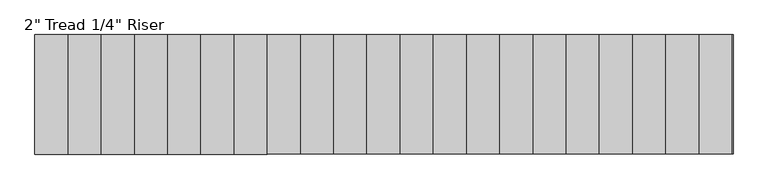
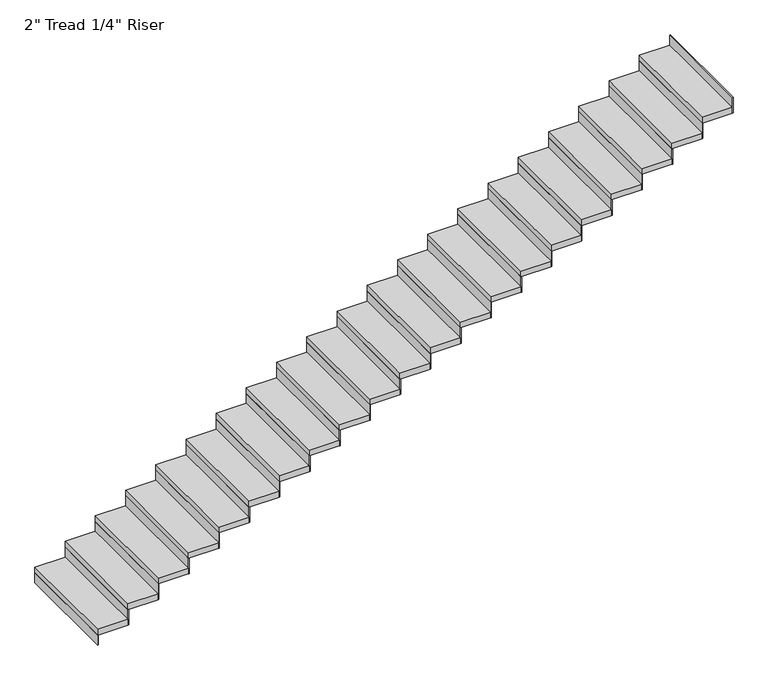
"""IFC4 building model written with IfcOpenShell, lengths in millimetres: stair flight geometry."""

import ifcopenshell
import ifcopenshell.guid

model = None  # the IFC model being written
_history = None  # IfcOwnerHistory: only IFC2X3 demands one
_inside = {}  # id of a spatial element -> (the spatial element, [elements in it])
_under = {}  # id of a project, library or spatial element -> (it, [spatial elements below it])
_declared = {}  # id of a project -> (the project, [libraries it declares])
_typed = {}  # id of a type object -> (the type object, [elements of that type])
_made_of = {}  # id of a material, layer set ... -> (it, [elements and type objects made of it])


def new_model(schema):
    """Start an empty IFC model of exactly this schema.

    Asked for "IFC4X3", IfcOpenShell would pick the latest addendum, in which some entities
    have other attributes; the version numbers below select the first issue.
    IFC2X3 requires an IfcOwnerHistory on every rooted entity: one is made here for all.
    """
    global model, _history
    if schema == "IFC4X3":
        model = ifcopenshell.file(schema_version=(4, 3, 0, 0))
    else:
        model = ifcopenshell.file(schema=schema)
    _inside.clear()
    _under.clear()
    _declared.clear()
    _typed.clear()
    _made_of.clear()
    _history = None
    if model.schema == "IFC2X3":
        org = make("IfcOrganization", Name="unknown")
        user = make(
            "IfcPersonAndOrganization",
            ThePerson=make("IfcPerson", FamilyName="unknown"),
            TheOrganization=org,
        )
        app = make(
            "IfcApplication",
            ApplicationDeveloper=org,
            Version="unknown",
            ApplicationFullName="unknown",
            ApplicationIdentifier="unknown",
        )
        _history = make(
            "IfcOwnerHistory",
            OwningUser=user,
            OwningApplication=app,
            ChangeAction="ADDED",
            CreationDate=0,
        )
    return model


def make(cls, **values):
    """One entity of the class cls with the attributes given. An attribute that is None is left unset."""
    return model.create_entity(
        cls, **{name: value for name, value in values.items() if value is not None}
    )


def rooted(cls, **values):
    """An entity with a GlobalId (a new one), such as an element, a storey or a relation."""
    return make(cls, GlobalId=ifcopenshell.guid.new(), OwnerHistory=_history, **values)


def si_unit(unit_type, name, prefix=None):
    """IfcSIUnit, for example si_unit("LENGTHUNIT", "METRE", prefix="MILLI")."""
    return make("IfcSIUnit", UnitType=unit_type, Prefix=prefix, Name=name)


def assignment(units):
    """IfcUnitAssignment: the units of a project."""
    return None if units is None else make("IfcUnitAssignment", Units=units)


def point(xyz):
    """IfcCartesianPoint."""
    return None if xyz is None else make("IfcCartesianPoint", Coordinates=xyz)


def direction(xyz):
    """IfcDirection."""
    return None if xyz is None else make("IfcDirection", DirectionRatios=xyz)


def frame(location, z_axis=None, x_axis=None):
    """IfcAxis2Placement3D, a coordinate frame: its origin and axes. An axis left out is left unset."""
    return make(
        "IfcAxis2Placement3D",
        Location=point(location),
        Axis=direction(z_axis),
        RefDirection=direction(x_axis),
    )


def origin():
    """The frame at (0, 0, 0) with its axes left unset."""
    return frame((0.0, 0.0, 0.0))


def origin_with_axes():
    """The frame at (0, 0, 0) with the z axis (0, 0, 1) and the x axis (1, 0, 0) written out."""
    return frame((0.0, 0.0, 0.0), z_axis=(0.0, 0.0, 1.0), x_axis=(1.0, 0.0, 0.0))


def place(relative_to, where):
    """IfcLocalPlacement: puts the frame where relative to a parent placement (None: the world)."""
    return make(
        "IfcLocalPlacement", PlacementRelTo=relative_to, RelativePlacement=where
    )


def context(
    kind, dimensions, precision=None, world=None, true_north=None, identifier=None
):
    """IfcGeometricRepresentationContext, for example the 3D "Model" context."""
    return make(
        "IfcGeometricRepresentationContext",
        ContextIdentifier=identifier,
        ContextType=kind,
        CoordinateSpaceDimension=dimensions,
        Precision=precision,
        WorldCoordinateSystem=world,
        TrueNorth=true_north,
    )


def project(units=None, contexts=None):
    """IfcProject with its units and contexts."""
    return rooted(
        "IfcProject",
        Name="project",
        RepresentationContexts=contexts,
        UnitsInContext=assignment(units),
    )


def spatial(cls, under=None, at=None, **own):
    """A site, building, storey or space (cls), placed at a placement, below another one or the project."""
    s = rooted(cls, ObjectPlacement=at, **own)
    if under is not None:
        _under.setdefault(under.id(), (under, []))[1].append(s)
    return s


def polyline(points):
    """IfcPolyline through the points."""
    return make("IfcPolyline", Points=[point(p) for p in points])


def outline(outer, holes=None, kind="AREA"):
    """IfcArbitraryClosedProfileDef: a profile drawn as a closed curve; with holes, ...WithVoids."""
    if holes is None:
        return make("IfcArbitraryClosedProfileDef", ProfileType=kind, OuterCurve=outer)
    return make(
        "IfcArbitraryProfileDefWithVoids",
        ProfileType=kind,
        OuterCurve=outer,
        InnerCurves=holes,
    )


def extrude(swept, where, along, depth):
    """IfcExtrudedAreaSolid: the profile swept, set in the frame where, extruded along a direction by depth."""
    return make(
        "IfcExtrudedAreaSolid",
        SweptArea=swept,
        Position=where,
        ExtrudedDirection=direction(along),
        Depth=depth,
    )


def shape(context_of_items, identifier, shape_type, items):
    """IfcShapeRepresentation: the items that make up one representation, for example the "Body"."""
    return make(
        "IfcShapeRepresentation",
        ContextOfItems=context_of_items,
        RepresentationIdentifier=identifier,
        RepresentationType=shape_type,
        Items=items,
    )


def source(mapping_origin, context_of_items, identifier, shape_type, items):
    """IfcRepresentationMap: a shape defined once, which mapped items show again and again."""
    return make(
        "IfcRepresentationMap",
        MappingOrigin=mapping_origin,
        MappedRepresentation=shape(context_of_items, identifier, shape_type, items),
    )


def transform(
    local_origin,
    x_axis=None,
    y_axis=None,
    z_axis=None,
    scale=None,
    scale2=None,
    scale3=None,
    uniform=True,
):
    """IfcCartesianTransformationOperator3D, or its non-uniform kind. x_axis, y_axis, z_axis: its Axis1, 2, 3."""
    if uniform:
        return make(
            "IfcCartesianTransformationOperator3D",
            Axis1=direction(x_axis),
            Axis2=direction(y_axis),
            LocalOrigin=point(local_origin),
            Scale=scale,
            Axis3=direction(z_axis),
        )
    return make(
        "IfcCartesianTransformationOperator3DnonUniform",
        Axis1=direction(x_axis),
        Axis2=direction(y_axis),
        LocalOrigin=point(local_origin),
        Scale=scale,
        Axis3=direction(z_axis),
        Scale2=scale2,
        Scale3=scale3,
    )


def mapped(mapping_source, mapping_target):
    """IfcMappedItem: shows the shape of a source again, moved by a transform."""
    return make(
        "IfcMappedItem", MappingSource=mapping_source, MappingTarget=mapping_target
    )


def made_of(thing, what):
    """Note that an element or type object is made of a material, layer set ...; save() writes the relation."""
    if what is not None:
        _made_of.setdefault(what.id(), (what, []))[1].append(thing)
    return thing


def element(
    cls,
    number,
    at=None,
    inside=None,
    cuts=None,
    type_object=None,
    material=None,
    context=None,
    identifier="Body",
    shape_type=None,
    held_by="IfcProductDefinitionShape",
    body=None,
    shapes=None,
    **own,
):
    """One element of the class cls, such as IfcWall. Its Tag is "e" and its number.

    at: its placement. inside: the storey or other place that contains it. cuts: it is an
    opening in that element (IfcRelVoidsElement). A single representation is given by context,
    identifier, shape_type and body (its items); several are given by shapes. held_by: the class
    of the entity that holds the representations. save() writes the other relations.
    """
    e = rooted(cls, Tag="e%d" % number, ObjectPlacement=at, **own)
    if body is not None:
        shapes = [shape(context, identifier, shape_type, body)]
    if shapes is not None:
        e.Representation = make(held_by, Representations=shapes)
    if inside is not None:
        _inside.setdefault(inside.id(), (inside, []))[1].append(e)
    if cuts is not None:
        rooted(
            "IfcRelVoidsElement", RelatingBuildingElement=cuts, RelatedOpeningElement=e
        )
    if type_object is not None:
        _typed.setdefault(type_object.id(), (type_object, []))[1].append(e)
    return made_of(e, material)


def aggregate(whole, parts):
    """IfcRelAggregates: a whole, such as a stair, and the parts it consists of."""
    return rooted("IfcRelAggregates", RelatingObject=whole, RelatedObjects=parts)


def save(model, path):
    """Write the relations noted so far, then the file.

    IfcRelAggregates (storeys below a building ...), IfcRelContainedInSpatialStructure (elements
    in a storey), IfcRelDefinesByType, IfcRelAssociatesMaterial and IfcRelDeclares: one each for
    every whole, place, type object, material and project.
    """
    for whole, parts in _under.values():
        aggregate(whole, parts)
    for where, things in _inside.values():
        rooted(
            "IfcRelContainedInSpatialStructure",
            RelatedElements=things,
            RelatingStructure=where,
        )
    for kind, things in _typed.values():
        rooted("IfcRelDefinesByType", RelatedObjects=things, RelatingType=kind)
    for what, things in _made_of.values():
        rooted("IfcRelAssociatesMaterial", RelatedObjects=things, RelatingMaterial=what)
    for by, libraries in _declared.values():
        rooted("IfcRelDeclares", RelatingContext=by, RelatedDefinitions=libraries)
    model.write(path)


def stair_flight_fd9954e7(model_context):
    return source(origin(), model_context, "Body", "SweptSolid", [
        extrude(outline(polyline([(37787.6074767, 34118.677022), (37781.2574767, 34118.677022), (37781.2574767, 35033.077022), (37787.6074767, 35033.077022), (37787.6074767, 34118.677022)])), origin_with_axes(), (0.0, 0.0, 1.0), 87.7454545),
        extrude(outline(polyline([(38035.2574767, 35033.077022), (38035.2574767, 34118.677022), (37781.2574767, 34118.677022), (37781.2574767, 35033.077022), (38035.2574767, 35033.077022)])), frame((0.0, 0.0, 87.7454545), z_axis=(0.0, 0.0, 1.0), x_axis=(1.0, 0.0, 0.0)), (0.0, 0.0, 1.0), 50.8),
        extrude(outline(polyline([(38041.6074767, 34118.677022), (38035.2574767, 34118.677022), (38035.2574767, 35033.077022), (38041.6074767, 35033.077022), (38041.6074767, 34118.677022)])), frame((0.0, 0.0, 87.7454545), z_axis=(0.0, 0.0, 1.0), x_axis=(1.0, 0.0, 0.0)), (0.0, 0.0, 1.0), 138.5454545),
        extrude(outline(polyline([(38289.2574767, 35033.077022), (38289.2574767, 34118.677022), (38035.2574767, 34118.677022), (38035.2574767, 35033.077022), (38289.2574767, 35033.077022)])), frame((0.0, 0.0, 226.2909091), z_axis=(0.0, 0.0, 1.0), x_axis=(1.0, 0.0, 0.0)), (0.0, 0.0, 1.0), 50.8),
        extrude(outline(polyline([(38295.6074767, 34118.677022), (38289.2574767, 34118.677022), (38289.2574767, 35033.077022), (38295.6074767, 35033.077022), (38295.6074767, 34118.677022)])), frame((0.0, 0.0, 226.2909091), z_axis=(0.0, 0.0, 1.0), x_axis=(1.0, 0.0, 0.0)), (0.0, 0.0, 1.0), 138.5454545),
        extrude(outline(polyline([(38543.2574767, 35033.077022), (38543.2574767, 34118.677022), (38289.2574767, 34118.677022), (38289.2574767, 35033.077022), (38543.2574767, 35033.077022)])), frame((0.0, 0.0, 364.8363636), z_axis=(0.0, 0.0, 1.0), x_axis=(1.0, 0.0, 0.0)), (0.0, 0.0, 1.0), 50.8),
        extrude(outline(polyline([(38549.6074767, 34118.677022), (38543.2574767, 34118.677022), (38543.2574767, 35033.077022), (38549.6074767, 35033.077022), (38549.6074767, 34118.677022)])), frame((0.0, 0.0, 364.8363636), z_axis=(0.0, 0.0, 1.0), x_axis=(1.0, 0.0, 0.0)), (0.0, 0.0, 1.0), 138.5454545),
        extrude(outline(polyline([(38797.2574767, 35033.077022), (38797.2574767, 34118.677022), (38543.2574767, 34118.677022), (38543.2574767, 35033.077022), (38797.2574767, 35033.077022)])), frame((0.0, 0.0, 503.3818182), z_axis=(0.0, 0.0, 1.0), x_axis=(1.0, 0.0, 0.0)), (0.0, 0.0, 1.0), 50.8),
        extrude(outline(polyline([(38803.6074767, 34118.677022), (38797.2574767, 34118.677022), (38797.2574767, 35033.077022), (38803.6074767, 35033.077022), (38803.6074767, 34118.677022)])), frame((0.0, 0.0, 503.3818182), z_axis=(0.0, 0.0, 1.0), x_axis=(1.0, 0.0, 0.0)), (0.0, 0.0, 1.0), 138.5454545),
        extrude(outline(polyline([(39051.2574767, 35033.077022), (39051.2574767, 34118.677022), (38797.2574767, 34118.677022), (38797.2574767, 35033.077022), (39051.2574767, 35033.077022)])), frame((0.0, 0.0, 641.9272727), z_axis=(0.0, 0.0, 1.0), x_axis=(1.0, 0.0, 0.0)), (0.0, 0.0, 1.0), 50.8),
        extrude(outline(polyline([(39057.6074767, 34118.677022), (39051.2574767, 34118.677022), (39051.2574767, 35033.077022), (39057.6074767, 35033.077022), (39057.6074767, 34118.677022)])), frame((0.0, 0.0, 641.9272727), z_axis=(0.0, 0.0, 1.0), x_axis=(1.0, 0.0, 0.0)), (0.0, 0.0, 1.0), 138.5454545),
        extrude(outline(polyline([(39305.2574767, 35033.077022), (39305.2574767, 34118.677022), (39051.2574767, 34118.677022), (39051.2574767, 35033.077022), (39305.2574767, 35033.077022)])), frame((0.0, 0.0, 780.4727273), z_axis=(0.0, 0.0, 1.0), x_axis=(1.0, 0.0, 0.0)), (0.0, 0.0, 1.0), 50.8),
        extrude(outline(polyline([(39311.6074767, 34118.677022), (39305.2574767, 34118.677022), (39305.2574767, 35033.077022), (39311.6074767, 35033.077022), (39311.6074767, 34118.677022)])), frame((0.0, 0.0, 780.4727273), z_axis=(0.0, 0.0, 1.0), x_axis=(1.0, 0.0, 0.0)), (0.0, 0.0, 1.0), 138.5454545),
        extrude(outline(polyline([(39559.2574767, 35033.077022), (39559.2574767, 34118.677022), (39305.2574767, 34118.677022), (39305.2574767, 35033.077022), (39559.2574767, 35033.077022)])), frame((0.0, 0.0, 919.0181818), z_axis=(0.0, 0.0, 1.0), x_axis=(1.0, 0.0, 0.0)), (0.0, 0.0, 1.0), 50.8),
        extrude(outline(polyline([(39565.6074767, 34118.677022), (39559.2574767, 34118.677022), (39559.2574767, 35033.077022), (39565.6074767, 35033.077022), (39565.6074767, 34118.677022)])), frame((0.0, 0.0, 919.0181818), z_axis=(0.0, 0.0, 1.0), x_axis=(1.0, 0.0, 0.0)), (0.0, 0.0, 1.0), 138.5454545),
        extrude(outline(polyline([(39813.2574767, 35033.077022), (39813.2574767, 34118.677022), (39559.2574767, 34118.677022), (39559.2574767, 35033.077022), (39813.2574767, 35033.077022)])), frame((0.0, 0.0, 1057.5636364), z_axis=(0.0, 0.0, 1.0), x_axis=(1.0, 0.0, 0.0)), (0.0, 0.0, 1.0), 50.8),
        extrude(outline(polyline([(39819.6074767, 34118.677022), (39813.2574767, 34118.677022), (39813.2574767, 35033.077022), (39819.6074767, 35033.077022), (39819.6074767, 34118.677022)])), frame((0.0, 0.0, 1057.5636364), z_axis=(0.0, 0.0, 1.0), x_axis=(1.0, 0.0, 0.0)), (0.0, 0.0, 1.0), 138.5454545),
        extrude(outline(polyline([(40067.2574767, 35033.077022), (40067.2574767, 34118.677022), (39813.2574767, 34118.677022), (39813.2574767, 35033.077022), (40067.2574767, 35033.077022)])), frame((0.0, 0.0, 1196.1090909), z_axis=(0.0, 0.0, 1.0), x_axis=(1.0, 0.0, 0.0)), (0.0, 0.0, 1.0), 50.8),
        extrude(outline(polyline([(40073.6074767, 34118.677022), (40067.2574767, 34118.677022), (40067.2574767, 35033.077022), (40073.6074767, 35033.077022), (40073.6074767, 34118.677022)])), frame((0.0, 0.0, 1196.1090909), z_axis=(0.0, 0.0, 1.0), x_axis=(1.0, 0.0, 0.0)), (0.0, 0.0, 1.0), 138.5454545),
        extrude(outline(polyline([(40321.2574767, 35033.077022), (40321.2574767, 34118.677022), (40067.2574767, 34118.677022), (40067.2574767, 35033.077022), (40321.2574767, 35033.077022)])), frame((0.0, 0.0, 1334.6545455), z_axis=(0.0, 0.0, 1.0), x_axis=(1.0, 0.0, 0.0)), (0.0, 0.0, 1.0), 50.8),
        extrude(outline(polyline([(40327.6074767, 34118.677022), (40321.2574767, 34118.677022), (40321.2574767, 35033.077022), (40327.6074767, 35033.077022), (40327.6074767, 34118.677022)])), frame((0.0, 0.0, 1334.6545455), z_axis=(0.0, 0.0, 1.0), x_axis=(1.0, 0.0, 0.0)), (0.0, 0.0, 1.0), 138.5454545),
        extrude(outline(polyline([(40575.2574767, 35033.077022), (40575.2574767, 34118.677022), (40321.2574767, 34118.677022), (40321.2574767, 35033.077022), (40575.2574767, 35033.077022)])), frame((0.0, 0.0, 1473.2), z_axis=(0.0, 0.0, 1.0), x_axis=(1.0, 0.0, 0.0)), (0.0, 0.0, 1.0), 50.8),
        extrude(outline(polyline([(40581.6074767, 34118.677022), (40575.2574767, 34118.677022), (40575.2574767, 35033.077022), (40581.6074767, 35033.077022), (40581.6074767, 34118.677022)])), frame((0.0, 0.0, 1473.2), z_axis=(0.0, 0.0, 1.0), x_axis=(1.0, 0.0, 0.0)), (0.0, 0.0, 1.0), 138.5454545),
        extrude(outline(polyline([(40829.2574767, 35033.077022), (40829.2574767, 34118.677022), (40575.2574767, 34118.677022), (40575.2574767, 35033.077022), (40829.2574767, 35033.077022)])), frame((0.0, 0.0, 1611.7454545), z_axis=(0.0, 0.0, 1.0), x_axis=(1.0, 0.0, 0.0)), (0.0, 0.0, 1.0), 50.8),
        extrude(outline(polyline([(40835.6074767, 34118.677022), (40829.2574767, 34118.677022), (40829.2574767, 35033.077022), (40835.6074767, 35033.077022), (40835.6074767, 34118.677022)])), frame((0.0, 0.0, 1611.7454545), z_axis=(0.0, 0.0, 1.0), x_axis=(1.0, 0.0, 0.0)), (0.0, 0.0, 1.0), 138.5454545),
        extrude(outline(polyline([(41083.2574767, 35033.077022), (41083.2574767, 34118.677022), (40829.2574767, 34118.677022), (40829.2574767, 35033.077022), (41083.2574767, 35033.077022)])), frame((0.0, 0.0, 1750.2909091), z_axis=(0.0, 0.0, 1.0), x_axis=(1.0, 0.0, 0.0)), (0.0, 0.0, 1.0), 50.8),
        extrude(outline(polyline([(41089.6074767, 34118.677022), (41083.2574767, 34118.677022), (41083.2574767, 35033.077022), (41089.6074767, 35033.077022), (41089.6074767, 34118.677022)])), frame((0.0, 0.0, 1750.2909091), z_axis=(0.0, 0.0, 1.0), x_axis=(1.0, 0.0, 0.0)), (0.0, 0.0, 1.0), 138.5454545),
        extrude(outline(polyline([(41337.2574767, 35033.077022), (41337.2574767, 34118.677022), (41083.2574767, 34118.677022), (41083.2574767, 35033.077022), (41337.2574767, 35033.077022)])), frame((0.0, 0.0, 1888.8363636), z_axis=(0.0, 0.0, 1.0), x_axis=(1.0, 0.0, 0.0)), (0.0, 0.0, 1.0), 50.8),
        extrude(outline(polyline([(41343.6074767, 34118.677022), (41337.2574767, 34118.677022), (41337.2574767, 35033.077022), (41343.6074767, 35033.077022), (41343.6074767, 34118.677022)])), frame((0.0, 0.0, 1888.8363636), z_axis=(0.0, 0.0, 1.0), x_axis=(1.0, 0.0, 0.0)), (0.0, 0.0, 1.0), 138.5454545),
        extrude(outline(polyline([(41591.2574767, 35033.077022), (41591.2574767, 34118.677022), (41337.2574767, 34118.677022), (41337.2574767, 35033.077022), (41591.2574767, 35033.077022)])), frame((0.0, 0.0, 2027.3818182), z_axis=(0.0, 0.0, 1.0), x_axis=(1.0, 0.0, 0.0)), (0.0, 0.0, 1.0), 50.8),
        extrude(outline(polyline([(41597.6074767, 34118.677022), (41591.2574767, 34118.677022), (41591.2574767, 35033.077022), (41597.6074767, 35033.077022), (41597.6074767, 34118.677022)])), frame((0.0, 0.0, 2027.3818182), z_axis=(0.0, 0.0, 1.0), x_axis=(1.0, 0.0, 0.0)), (0.0, 0.0, 1.0), 138.5454545),
        extrude(outline(polyline([(41845.2574767, 35033.077022), (41845.2574767, 34118.677022), (41591.2574767, 34118.677022), (41591.2574767, 35033.077022), (41845.2574767, 35033.077022)])), frame((0.0, 0.0, 2165.9272727), z_axis=(0.0, 0.0, 1.0), x_axis=(1.0, 0.0, 0.0)), (0.0, 0.0, 1.0), 50.8),
        extrude(outline(polyline([(41851.6074767, 34118.677022), (41845.2574767, 34118.677022), (41845.2574767, 35033.077022), (41851.6074767, 35033.077022), (41851.6074767, 34118.677022)])), frame((0.0, 0.0, 2165.9272727), z_axis=(0.0, 0.0, 1.0), x_axis=(1.0, 0.0, 0.0)), (0.0, 0.0, 1.0), 138.5454545),
        extrude(outline(polyline([(42099.2574767, 35033.077022), (42099.2574767, 34118.677022), (41845.2574767, 34118.677022), (41845.2574767, 35033.077022), (42099.2574767, 35033.077022)])), frame((0.0, 0.0, 2304.4727273), z_axis=(0.0, 0.0, 1.0), x_axis=(1.0, 0.0, 0.0)), (0.0, 0.0, 1.0), 50.8),
        extrude(outline(polyline([(42105.6074767, 34118.677022), (42099.2574767, 34118.677022), (42099.2574767, 35033.077022), (42105.6074767, 35033.077022), (42105.6074767, 34118.677022)])), frame((0.0, 0.0, 2304.4727273), z_axis=(0.0, 0.0, 1.0), x_axis=(1.0, 0.0, 0.0)), (0.0, 0.0, 1.0), 138.5454545),
        extrude(outline(polyline([(42353.2574767, 35033.077022), (42353.2574767, 34118.677022), (42099.2574767, 34118.677022), (42099.2574767, 35033.077022), (42353.2574767, 35033.077022)])), frame((0.0, 0.0, 2443.0181818), z_axis=(0.0, 0.0, 1.0), x_axis=(1.0, 0.0, 0.0)), (0.0, 0.0, 1.0), 50.8),
        extrude(outline(polyline([(42359.6074767, 34118.677022), (42353.2574767, 34118.677022), (42353.2574767, 35033.077022), (42359.6074767, 35033.077022), (42359.6074767, 34118.677022)])), frame((0.0, 0.0, 2443.0181818), z_axis=(0.0, 0.0, 1.0), x_axis=(1.0, 0.0, 0.0)), (0.0, 0.0, 1.0), 138.5454545),
        extrude(outline(polyline([(42607.2574767, 35033.077022), (42607.2574767, 34118.677022), (42353.2574767, 34118.677022), (42353.2574767, 35033.077022), (42607.2574767, 35033.077022)])), frame((0.0, 0.0, 2581.5636364), z_axis=(0.0, 0.0, 1.0), x_axis=(1.0, 0.0, 0.0)), (0.0, 0.0, 1.0), 50.8),
        extrude(outline(polyline([(42613.6074767, 34118.677022), (42607.2574767, 34118.677022), (42607.2574767, 35033.077022), (42613.6074767, 35033.077022), (42613.6074767, 34118.677022)])), frame((0.0, 0.0, 2581.5636364), z_axis=(0.0, 0.0, 1.0), x_axis=(1.0, 0.0, 0.0)), (0.0, 0.0, 1.0), 138.5454545),
        extrude(outline(polyline([(42861.2574767, 35033.077022), (42861.2574767, 34118.677022), (42607.2574767, 34118.677022), (42607.2574767, 35033.077022), (42861.2574767, 35033.077022)])), frame((0.0, 0.0, 2720.1090909), z_axis=(0.0, 0.0, 1.0), x_axis=(1.0, 0.0, 0.0)), (0.0, 0.0, 1.0), 50.8),
        extrude(outline(polyline([(42867.6074767, 34118.677022), (42861.2574767, 34118.677022), (42861.2574767, 35033.077022), (42867.6074767, 35033.077022), (42867.6074767, 34118.677022)])), frame((0.0, 0.0, 2720.1090909), z_axis=(0.0, 0.0, 1.0), x_axis=(1.0, 0.0, 0.0)), (0.0, 0.0, 1.0), 138.5454545),
        extrude(outline(polyline([(43121.6074767, 34118.677022), (43115.2574767, 34118.677022), (43115.2574767, 35033.077022), (43121.6074767, 35033.077022), (43121.6074767, 34118.677022)])), frame((0.0, 0.0, 2858.6545455), z_axis=(0.0, 0.0, 1.0), x_axis=(1.0, 0.0, 0.0)), (0.0, 0.0, 1.0), 138.5454545),
        extrude(outline(polyline([(43115.2574767, 35033.077022), (43115.2574767, 34118.677022), (42861.2574767, 34118.677022), (42861.2574767, 35033.077022), (43115.2574767, 35033.077022)])), frame((0.0, 0.0, 2858.6545455), z_axis=(0.0, 0.0, 1.0), x_axis=(1.0, 0.0, 0.0)), (0.0, 0.0, 1.0), 50.8),
    ])


if __name__ == "__main__":
    model = new_model("IFC4")
    model_context = context("Model", 3, world=origin())
    ifc_project = project(units=[si_unit("LENGTHUNIT", "METRE", prefix="MILLI")], contexts=[model_context])
    site = spatial("IfcSite", under=ifc_project)
    building = spatial("IfcBuilding", under=site)
    placement = place(None, origin())
    stair_flight_shape = stair_flight_fd9954e7(model_context)
    element("IfcStairFlight", 1, ObjectType="2\" Tread 1/4\" Riser", at=placement, inside=building, context=model_context, shape_type="MappedRepresentation", body=[
        mapped(stair_flight_shape, transform((0.0, 0.0, 0.0), x_axis=(1.0, 0.0, 0.0), y_axis=(0.0, 1.0, 0.0), z_axis=(0.0, 0.0, 1.0))),
    ])
    save(model, "model.ifc")
